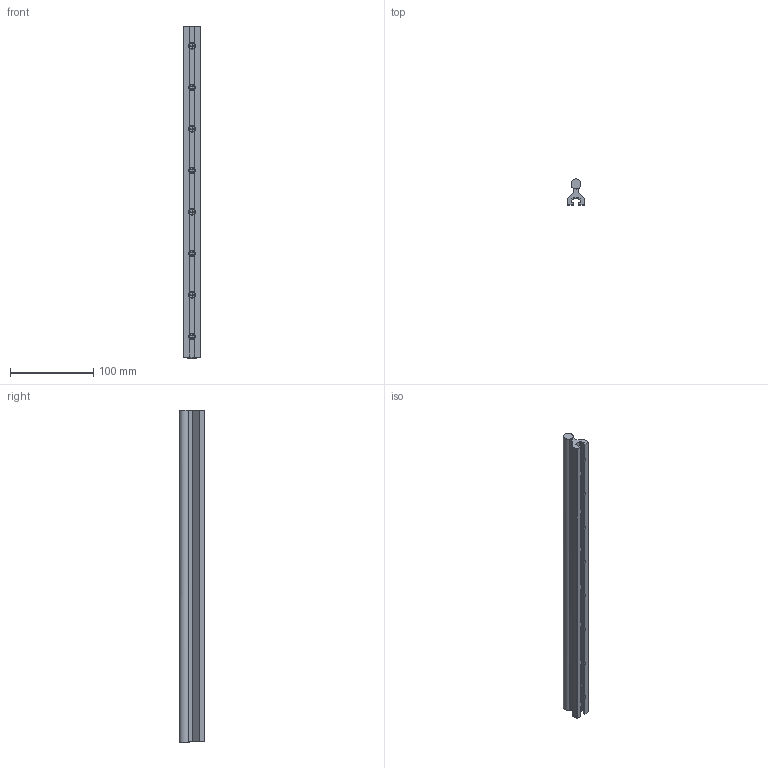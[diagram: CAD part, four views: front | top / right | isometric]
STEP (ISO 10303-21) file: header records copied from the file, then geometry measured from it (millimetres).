
FILE_DESCRIPTION (( 'STEP AP203' ), '1' );
FILE_NAME ('LFS-12-11_-_LFS-12-11 L=398 - ArtNr 220002 0398.step', '2015-05-04T10:55:06', ( '' ), ( '' ), 'SwSTEP 2.0', 'SolidWorks 2014', '' );
FILE_SCHEMA (( 'CONFIG_CONTROL_DESIGN' ));
Length unit declared in the file: millimetre
Products named in the file (1): LFS-12-11_-_LFS-12-11 L=398 - ArtNr 220002 0398
Bounding box: 20 x 31 x 400 mm (x, y, z)
Volume: 120591.7 mm3; surface area: 54392.1 mm2
Topology: 1 solids, 1 shells, 310 faces, 840 edges, 538 vertices
Faces by surface type: plane 151, cylinder 143, cone 8, torus 8
Full cylindrical faces by diameter (mm): 7 x8, 8 x8, 12 x1
Entity records: 10036 total; most frequent: CARTESIAN_POINT 2838, ORIENTED_EDGE 1580, DIRECTION 1317, EDGE_CURVE 790, VERTEX_POINT 521, AXIS2_PLACEMENT_3D 440, VECTOR 437, LINE 437
